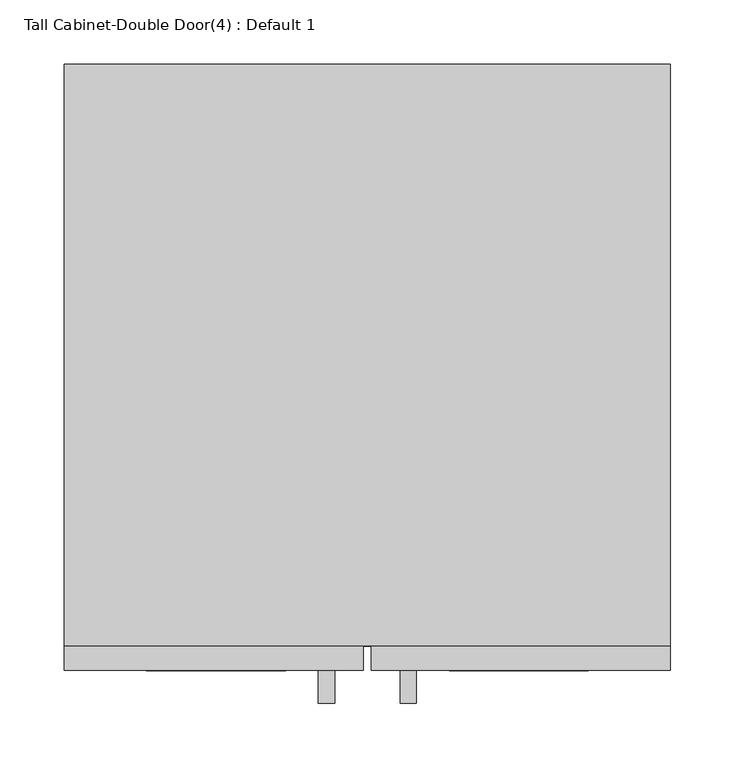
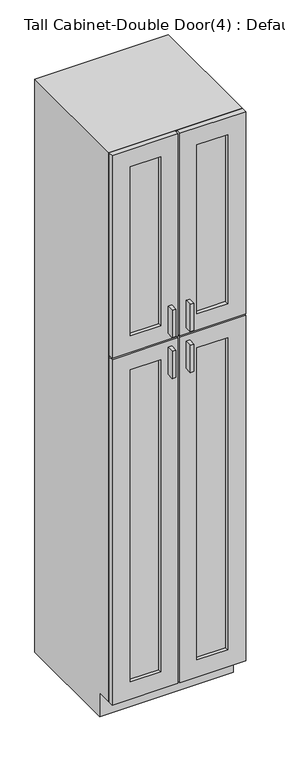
"""IFC4 building model written with IfcOpenShell, lengths in millimetres: furniture geometry, Tall Cabinet-Double Door(4) : Default 1."""

from ifc_helpers import new_model, si_unit, frame, origin, place, context, project, spatial, polyline, outline, extrude, faceted_brep, source, transform, mapped, element, save


def tall_cabinet_double_door_4_default_1_131b94b9(model_context):
    return source(origin(), model_context, "Body", "SolidModel", [
        faceted_brep([(253.6877049, -450.85, 90.4875), (253.6877049, -450.85, 2133.6), (-216.2122951, -450.85, 2133.6), (-216.2122951, -450.85, 90.4875), (234.6377049, -450.85, 2114.55), (234.6377049, -450.85, 109.5375), (-197.1622951, -450.85, 109.5375), (-197.1622951, -450.85, 2114.55), (-216.2122951, 0.0, 2133.6), (253.6877049, 0.0, 2133.6), (253.6877049, 0.0, 1.5875), (-216.2122951, 0.0, 1.5875), (234.6377049, 0.0, 2114.55), (-197.1622951, 0.0, 2114.55), (-197.1622951, 0.0, 109.5375), (234.6377049, 0.0, 109.5375), (253.6877049, -393.7, 90.4875), (253.6877049, -393.7, 1.5875), (-216.2122951, -393.7, 1.5875), (-216.2122951, -393.7, 90.4875)], [[[0, 1, 2, 3], [4, 5, 6, 7]], [[8, 9, 10, 11], [12, 13, 14, 15]], [[1, 0, 16, 17, 10, 9]], [[2, 1, 9, 8]], [[3, 2, 8, 11, 18, 19]], [[0, 3, 19, 16]], [[5, 4, 12, 15]], [[6, 5, 15, 14]], [[7, 6, 14, 13]], [[4, 7, 13, 12]], [[10, 17, 18, 11]], [[18, 17, 16, 19]]]),
        extrude(outline(polyline([(-6.6622951, -495.3), (-19.1945267, -495.3), (-19.1945267, -469.9), (-6.6622951, -469.9), (-6.6622951, -495.3)])), frame((0.0, 0.0, 1403.5480367), z_axis=(0.0, 0.0, 1.0), x_axis=(1.0, 0.0, 0.0)), (0.0, 0.0, 1.0), 101.6),
        extrude(outline(polyline([(56.6699365, -495.3), (44.1377049, -495.3), (44.1377049, -469.9), (56.6699365, -469.9), (56.6699365, -495.3)])), frame((0.0, 0.0, 1403.5480367), z_axis=(0.0, 0.0, 1.0), x_axis=(1.0, 0.0, 0.0)), (0.0, 0.0, 1.0), 101.6),
        extrude(outline(polyline([(-6.6622951, -495.3), (-19.1945267, -495.3), (-19.1945267, -469.9), (-6.6622951, -469.9), (-6.6622951, -495.3)])), frame((0.0, 0.0, 1251.1480367), z_axis=(0.0, 0.0, 1.0), x_axis=(1.0, 0.0, 0.0)), (0.0, 0.0, 1.0), 101.6),
        extrude(outline(polyline([(56.6699365, -495.3), (44.1377049, -495.3), (44.1377049, -469.9), (56.6699365, -469.9), (56.6699365, -495.3)])), frame((0.0, 0.0, 1251.1480367), z_axis=(0.0, 0.0, 1.0), x_axis=(1.0, 0.0, 0.0)), (0.0, 0.0, 1.0), 101.6),
        extrude(outline(polyline([(-44.7622951, -457.2), (-152.7122951, -457.2), (-152.7122951, -450.85), (-44.7622951, -450.85), (-44.7622951, -457.2)])), frame((0.0, 0.0, 1441.6480367), z_axis=(0.0, 0.0, 1.0), x_axis=(1.0, 0.0, 0.0)), (0.0, 0.0, 1.0), 628.4519633),
        extrude(outline(polyline([(190.1877049, -457.2), (82.2377049, -457.2), (82.2377049, -450.85), (190.1877049, -450.85), (190.1877049, -457.2)])), frame((0.0, 0.0, 1441.6480367), z_axis=(0.0, 0.0, 1.0), x_axis=(1.0, 0.0, 0.0)), (0.0, 0.0, 1.0), 628.4519633),
        extrude(outline(polyline([(-44.7622951, -457.2), (-152.7122951, -457.2), (-152.7122951, -450.85), (-44.7622951, -450.85), (-44.7622951, -457.2)])), frame((0.0, 0.0, 153.9875), z_axis=(0.0, 0.0, 1.0), x_axis=(1.0, 0.0, 0.0)), (0.0, 0.0, 1.0), 1160.6605367),
        extrude(outline(polyline([(190.1877049, -457.2), (82.2377049, -457.2), (82.2377049, -450.85), (190.1877049, -450.85), (190.1877049, -457.2)])), frame((0.0, 0.0, 153.9875), z_axis=(0.0, 0.0, 1.0), x_axis=(1.0, 0.0, 0.0)), (0.0, 0.0, 1.0), 1160.6605367),
        extrude(outline(polyline([(2133.6, 15.5627049), (2133.6, -216.2122951), (1381.3230367, -216.2122951), (1381.3230367, 15.5627049), (2133.6, 15.5627049)]), holes=[polyline([(2070.1, -44.7622951), (1441.6480367, -44.7622951), (1441.6480367, -152.7122951), (2070.1, -152.7122951), (2070.1, -44.7622951)])]), frame((0.0, -469.9, 0.0), z_axis=(0.0, 1.0, 0.0), x_axis=(0.0, 0.0, 1.0)), (0.0, 0.0, 1.0), 19.05),
        extrude(outline(polyline([(2133.6, 21.9127049), (1381.3230367, 21.9127049), (1381.3230367, 253.6877049), (2133.6, 253.6877049), (2133.6, 21.9127049)]), holes=[polyline([(2070.1, 190.1877049), (1441.6480367, 190.1877049), (1441.6480367, 82.2377049), (2070.1, 82.2377049), (2070.1, 190.1877049)])]), frame((0.0, -469.9, 0.0), z_axis=(0.0, 1.0, 0.0), x_axis=(0.0, 0.0, 1.0)), (0.0, 0.0, 1.0), 19.05),
        extrude(outline(polyline([(90.4875, 21.9127049), (90.4875, 253.6877049), (1374.9730367, 253.6877049), (1374.9730367, 21.9127049), (90.4875, 21.9127049)]), holes=[polyline([(1314.6480367, 82.2377049), (1314.6480367, 190.1877049), (153.9875, 190.1877049), (153.9875, 82.2377049), (1314.6480367, 82.2377049)])]), frame((0.0, -469.9, 0.0), z_axis=(0.0, 1.0, 0.0), x_axis=(0.0, 0.0, 1.0)), (0.0, 0.0, 1.0), 19.05),
        extrude(outline(polyline([(90.4875, 15.5627049), (1374.9730367, 15.5627049), (1374.9730367, -216.2122951), (90.4875, -216.2122951), (90.4875, 15.5627049)]), holes=[polyline([(1314.6480367, -44.7622951), (153.9875, -44.7622951), (153.9875, -152.7122951), (1314.6480367, -152.7122951), (1314.6480367, -44.7622951)])]), frame((0.0, -469.9, 0.0), z_axis=(0.0, 1.0, 0.0), x_axis=(0.0, 0.0, 1.0)), (0.0, 0.0, 1.0), 19.05),
        extrude(outline(polyline([(234.6377049, -19.05), (-197.1622951, -19.05), (-197.1622951, 0.0), (234.6377049, 0.0), (234.6377049, -19.05)])), frame((0.0, 0.0, 109.5375), z_axis=(0.0, 0.0, 1.0), x_axis=(1.0, 0.0, 0.0)), (0.0, 0.0, 1.0), 2005.0125),
    ])


if __name__ == "__main__":
    model = new_model("IFC4")
    model_context = context("Model", 3, world=origin())
    ifc_project = project(units=[si_unit("LENGTHUNIT", "METRE", prefix="MILLI")], contexts=[model_context])
    site = spatial("IfcSite", under=ifc_project)
    building = spatial("IfcBuilding", under=site)
    placement = place(None, origin())
    tall_cabinet_double_door_4_default_1_shape = tall_cabinet_double_door_4_default_1_131b94b9(model_context)
    element("IfcFurniture", 1, ObjectType="Tall Cabinet-Double Door(4) : Default 1", at=placement, inside=building, context=model_context, shape_type="MappedRepresentation", body=[
        mapped(tall_cabinet_double_door_4_default_1_shape, transform((0.0, 0.0, 0.0), x_axis=(1.0, 0.0, 0.0), y_axis=(0.0, 1.0, 0.0), z_axis=(0.0, 0.0, 1.0))),
    ])
    save(model, "model.ifc")
